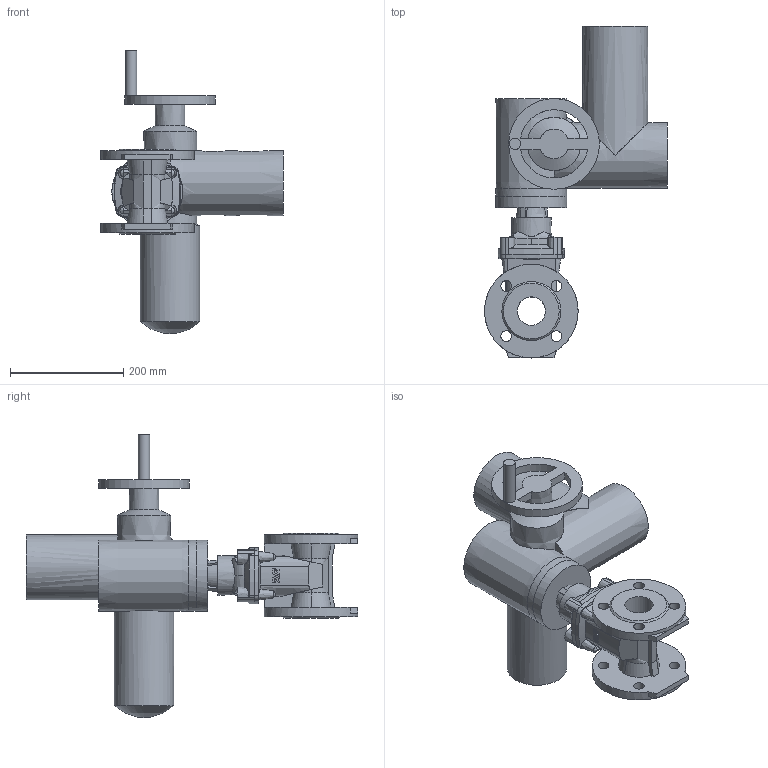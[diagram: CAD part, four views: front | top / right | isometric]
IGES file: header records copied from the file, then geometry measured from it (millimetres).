
Start section: SolidWorks IGES file using analytic representation for surfaces
Global section: file name: \\avksan2\techshare\PBM outline export from Enovia\O_15_40_DN050_X1X_SA07.6_AA0.igs; native system: SolidWorks 2012; preprocessor: SolidWorks 2012; author: pbm; date: 170320.130906; units: inch
Bounding box: 322.5 x 585 x 499 mm (x, y, z)
Surface area: 556976.3 mm2 (no closed solid volume)
Topology: 0 solids, 0 shells, 286 faces, 1655 edges, 1619 vertices
Faces by surface type: bspline 148, revolution 138
